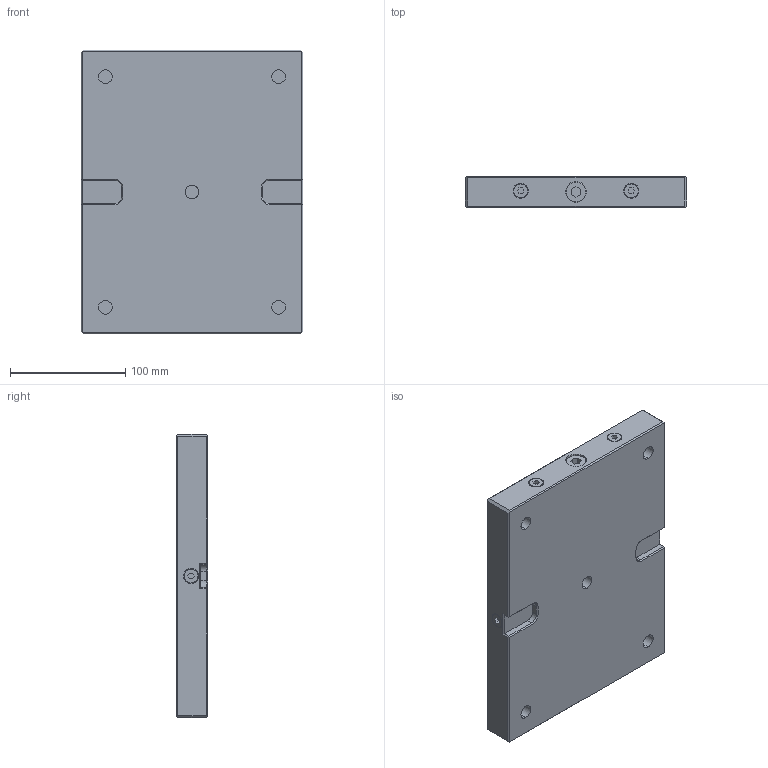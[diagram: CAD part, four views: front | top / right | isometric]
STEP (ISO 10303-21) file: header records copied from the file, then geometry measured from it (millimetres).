
FILE_DESCRIPTION (( 'STEP AP203' ), '1' );
FILE_NAME ('45715.STEP', '2015-04-09T09:46:34', ( '' ), ( '' ), 'SwSTEP 2.0', 'SolidWorks 2011', '' );
FILE_SCHEMA (( 'CONFIG_CONTROL_DESIGN' ));
Length unit declared in the file: millimetre
Products named in the file (1): 45715
Bounding box: 192 x 27 x 246 mm (x, y, z)
Volume: 1139825.7 mm3; surface area: 161097 mm2
Topology: 12 solids, 12 shells, 275 faces, 634 edges, 391 vertices
Faces by surface type: plane 131, cylinder 96, cone 40, torus 8
Entity records: 8549 total; most frequent: CARTESIAN_POINT 2187, DIRECTION 1328, ORIENTED_EDGE 1268, EDGE_CURVE 634, AXIS2_PLACEMENT_3D 480, VERTEX_POINT 391, LINE 368, VECTOR 368
